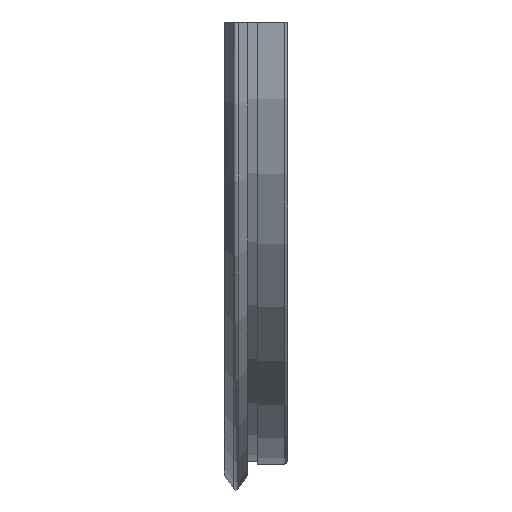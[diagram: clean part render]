
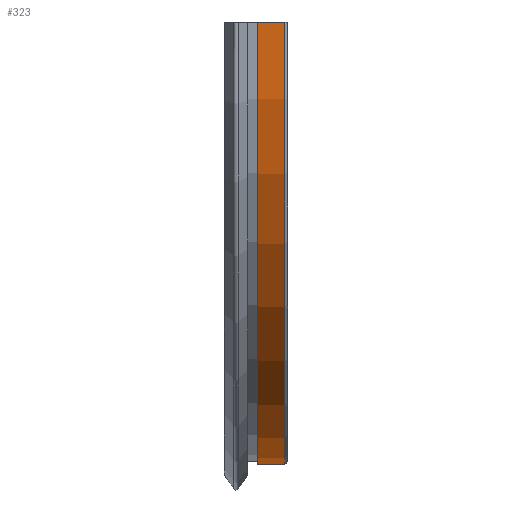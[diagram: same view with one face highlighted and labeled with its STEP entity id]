
A CAD part, left-side view. The second image highlights one B-rep face of the part: STEP entity #323.
In plain terms, the highlighted cylindrical face has radius 87 mm (diameter 174 mm), a partial arc.
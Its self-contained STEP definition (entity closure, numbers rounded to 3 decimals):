
#323 = ADVANCED_FACE( '', ( #983 ), #984, .T. );
#983 = FACE_OUTER_BOUND( '', #1780, .T. );
#984 = CYLINDRICAL_SURFACE( '', #1781, 87. );
#1780 = EDGE_LOOP( '', ( #4490, #4491, #4492, #4493 ) );
#1781 = AXIS2_PLACEMENT_3D( '', #4494, #4495, #4496 );
#4490 = ORIENTED_EDGE( '', *, *, #6184, .F. );
#4491 = ORIENTED_EDGE( '', *, *, #6520, .T. );
#4492 = ORIENTED_EDGE( '', *, *, #6518, .T. );
#4493 = ORIENTED_EDGE( '', *, *, #6177, .T. );
#4494 = CARTESIAN_POINT( '', ( 0., 0., 0. ) );
#4495 = DIRECTION( '', ( 0., 1., 0. ) );
#4496 = DIRECTION( '', ( 0., 0., -1. ) );
#6177 = EDGE_CURVE( '', #8017, #8015, #8018, .T. );
#6184 = EDGE_CURVE( '', #8030, #8015, #8031, .T. );
#6518 = EDGE_CURVE( '', #8397, #8017, #8398, .T. );
#6520 = EDGE_CURVE( '', #8030, #8397, #8400, .F. );
#8015 = VERTEX_POINT( '', #10892 );
#8017 = VERTEX_POINT( '', #10897 );
#8018 = LINE( '', #10898, #10899 );
#8030 = VERTEX_POINT( '', #10929 );
#8031 = CIRCLE( '', #10930, 87. );
#8397 = VERTEX_POINT( '', #11325 );
#8398 = CIRCLE( '', #11326, 87. );
#8400 = LINE( '', #11329, #11330 );
#10892 = CARTESIAN_POINT( '', ( 86.994, 0.5, -1. ) );
#10897 = CARTESIAN_POINT( '', ( 86.994, 5.75, -1. ) );
#10898 = CARTESIAN_POINT( '', ( 86.994, 0., -1. ) );
#10899 = VECTOR( '', #11969, 1000. );
#10929 = CARTESIAN_POINT( '', ( -86.994, 0.5, -1. ) );
#10930 = AXIS2_PLACEMENT_3D( '', #11973, #11974, #11975 );
#11325 = CARTESIAN_POINT( '', ( -86.994, 5.75, -1. ) );
#11326 = AXIS2_PLACEMENT_3D( '', #12938, #12939, #12940 );
#11329 = CARTESIAN_POINT( '', ( -86.994, 0., -1. ) );
#11330 = VECTOR( '', #12942, 1000. );
#11969 = DIRECTION( '', ( 0., -1., 0. ) );
#11973 = CARTESIAN_POINT( '', ( 0., 0.5, 0. ) );
#11974 = DIRECTION( '', ( 0., -1., 0. ) );
#11975 = DIRECTION( '', ( 0., 0., -1. ) );
#12938 = CARTESIAN_POINT( '', ( 0., 5.75, 0. ) );
#12939 = DIRECTION( '', ( 0., -1., 0. ) );
#12940 = DIRECTION( '', ( 0., 0., -1. ) );
#12942 = DIRECTION( '', ( 0., -1., 0. ) );
